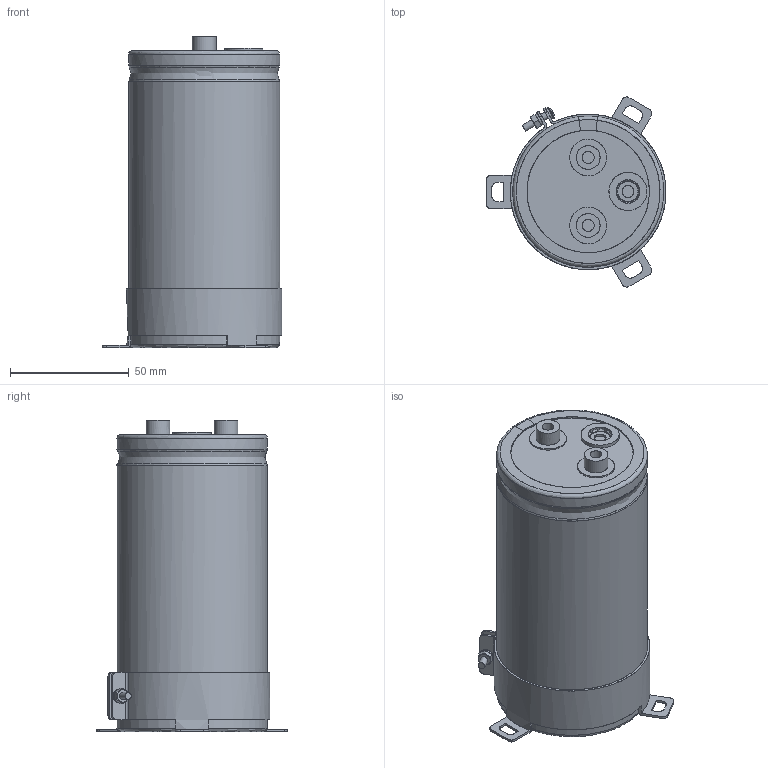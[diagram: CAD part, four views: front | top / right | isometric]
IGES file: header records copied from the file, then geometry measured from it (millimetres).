
Start section: JAMA-IS VERSION  1.0
Bounding box: 75.75 x 80.01 x 131 mm (x, y, z)
Surface area: 95851 mm2 (no closed solid volume)
Topology: 0 solids, 0 shells, 259 faces, 4436 edges, 4409 vertices
Faces by surface type: bspline 259
